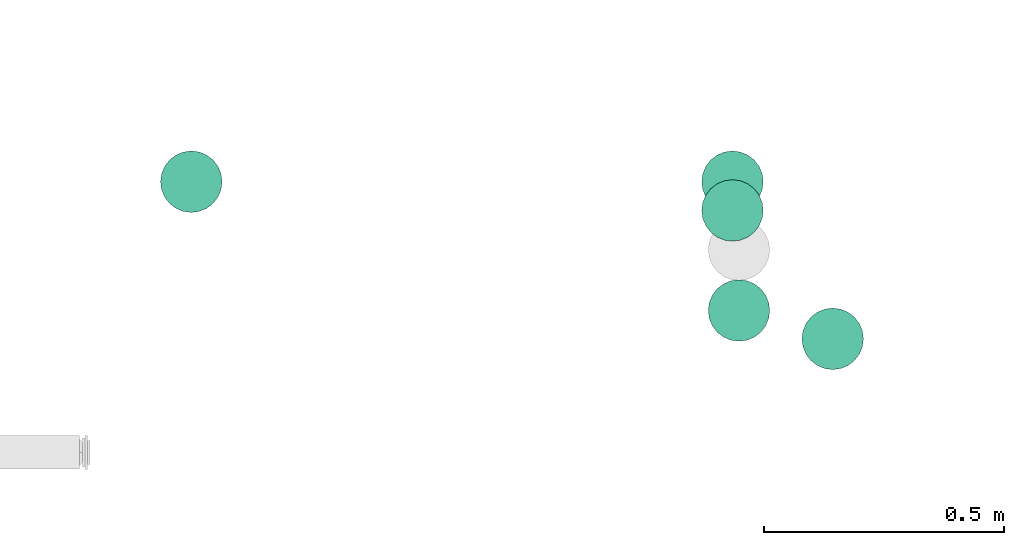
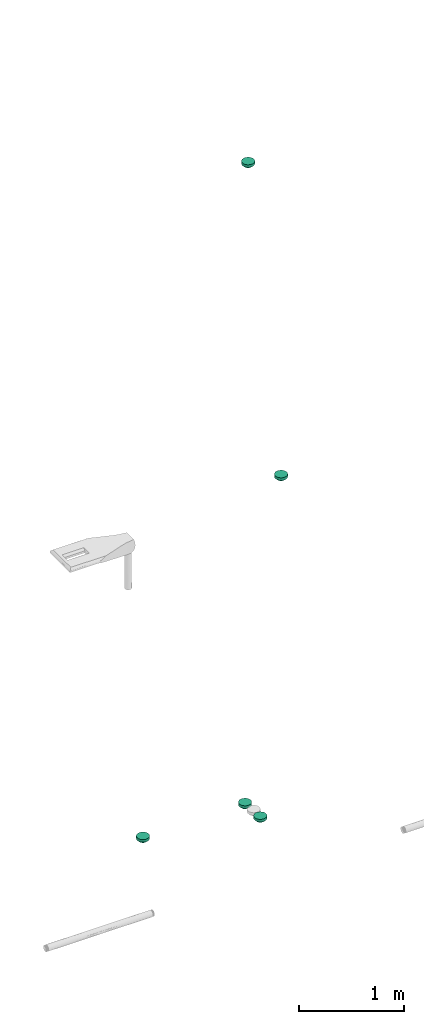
# One storey, part 106 of 153: 5 flow terminals.
"""IFC2X3 building model written with IfcOpenShell, lengths in metres."""

from ifc_helpers import new_model, entity, si_unit, converted_unit, derived_unit, direction, frame, origin, place, context, subcontext, project, spatial, faceted_brep, source, transform, mapped, type_object, type_shapes, element, save


model = new_model("IFC2X3")

# Units and contexts
model_context = context("Model", 3, precision=1e-05, world=origin(), true_north=direction((6.12303176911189e-17, 1.0)))
body_context = subcontext(model_context, "Body", "Model", "MODEL_VIEW")
ifc_project = project(units=[si_unit("LENGTHUNIT", "METRE"), si_unit("AREAUNIT", "SQUARE_METRE"), si_unit("VOLUMEUNIT", "CUBIC_METRE"), converted_unit("PLANEANGLEUNIT", "DEGREE", entity("IfcRatioMeasure", 0.0174532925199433), si_unit("PLANEANGLEUNIT", "RADIAN"), dimensions=[0, 0, 0, 0, 0, 0, 0]), si_unit("MASSUNIT", "GRAM", prefix="KILO"), derived_unit("MASSDENSITYUNIT", [(si_unit("MASSUNIT", "GRAM", prefix="KILO"), 1), (si_unit("LENGTHUNIT", "METRE"), -3)]), si_unit("TIMEUNIT", "SECOND"), si_unit("FREQUENCYUNIT", "HERTZ"), si_unit("THERMODYNAMICTEMPERATUREUNIT", "DEGREE_CELSIUS"), derived_unit("THERMALTRANSMITTANCEUNIT", [(si_unit("MASSUNIT", "GRAM", prefix="KILO"), 1), (si_unit("THERMODYNAMICTEMPERATUREUNIT", "KELVIN"), -1), (si_unit("TIMEUNIT", "SECOND"), -3)]), derived_unit("VOLUMETRICFLOWRATEUNIT", [(si_unit("LENGTHUNIT", "METRE"), 3), (si_unit("TIMEUNIT", "SECOND"), -1)]), si_unit("ELECTRICCURRENTUNIT", "AMPERE"), si_unit("ELECTRICVOLTAGEUNIT", "VOLT"), si_unit("POWERUNIT", "WATT"), si_unit("FORCEUNIT", "NEWTON"), si_unit("ILLUMINANCEUNIT", "LUX"), si_unit("LUMINOUSFLUXUNIT", "LUMEN"), si_unit("LUMINOUSINTENSITYUNIT", "CANDELA"), derived_unit("USERDEFINED", [(si_unit("MASSUNIT", "GRAM", prefix="KILO"), -1), (si_unit("LENGTHUNIT", "METRE"), -2), (si_unit("TIMEUNIT", "SECOND"), 3), (si_unit("LUMINOUSFLUXUNIT", "LUMEN"), 1)]), derived_unit("LINEARVELOCITYUNIT", [(si_unit("LENGTHUNIT", "METRE"), 1), (si_unit("TIMEUNIT", "SECOND"), -1)]), si_unit("PRESSUREUNIT", "PASCAL"), derived_unit("USERDEFINED", [(si_unit("LENGTHUNIT", "METRE"), -2), (si_unit("MASSUNIT", "GRAM", prefix="KILO"), 1), (si_unit("TIMEUNIT", "SECOND"), -2)])], contexts=[model_context])

# Site, building, storey
site_placement = place(None, origin())
site = spatial("IfcSite", under=ifc_project, at=site_placement, Name="Default", CompositionType="ELEMENT")
building_placement = place(site_placement, origin())
building = spatial("IfcBuilding", under=site, at=building_placement, CompositionType="ELEMENT")
storey_placement = place(building_placement, frame((0.0, 0.0, -4.62)))
storey = spatial("IfcBuildingStorey", under=building, at=storey_placement, Name="S02", CompositionType="ELEMENT", Elevation=-4.62)

# Flow terminals
light_fixture_type = type_object("IfcLightFixtureType", Name="Détecteur 360°", PredefinedType="NOTDEFINED")
shared_shape = source(origin(), body_context, "Body", "Brep", [
    faceted_brep([(0.0, -0.0397165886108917, 0.0531256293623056), (0.0, -0.034524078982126, 0.0563702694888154), (-0.0175153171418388, -0.0435914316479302, 0.0478512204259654), (-0.0194029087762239, -0.000878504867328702, 0.0644483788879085), (0.0, 0.0, 0.0669999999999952), (0.0, 0.00603476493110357, 0.0659648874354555), (-0.0174057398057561, -0.0159851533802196, 0.0630502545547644), (-0.0366619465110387, -0.0127227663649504, 0.0549213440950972), (-0.026998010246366, -0.0195753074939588, 0.0584711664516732), (-0.0202403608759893, -0.0335607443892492, 0.054639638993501), (-0.0359767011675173, -0.0348394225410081, 0.0444249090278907), (-0.0276843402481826, -0.0401006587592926, 0.0459804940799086), (-0.0133088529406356, -0.0517577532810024, 0.0400582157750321), (-0.0172617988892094, -0.0486391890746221, 0.042533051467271), (-0.0256912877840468, -0.0533485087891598, 0.0299999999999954), (-0.0462941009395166, -0.0369183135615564, 0.0299999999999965), (0.0, -0.0241390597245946, 0.0628595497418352), (-0.0186245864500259, -0.0267295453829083, 0.0589100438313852), (-0.0139070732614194, -0.0374370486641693, 0.0540817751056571), (0.0, 0.0449090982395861, 0.049880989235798), (-0.0172618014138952, 0.0486391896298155, 0.0425330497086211), (0.0, 0.0397165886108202, 0.0531256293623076), (-0.0186245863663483, 0.0267295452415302, 0.0589100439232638), (-0.0202403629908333, 0.0335607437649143, 0.054639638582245), (-0.0353547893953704, 0.0284533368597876, 0.0494330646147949), (0.0, 0.0120695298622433, 0.0649297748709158), (-0.0249385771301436, 0.0204731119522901, 0.0590841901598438), (-0.0191783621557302, 0.0150189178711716, 0.062775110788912), (-0.0465404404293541, -0.0196510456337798, 0.0438984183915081), (-0.052010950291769, -0.0250471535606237, 0.029999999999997), (-0.0453471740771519, -0.0286501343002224, 0.0397747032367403), (-0.0365036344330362, -0.0226255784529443, 0.0516441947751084), (-0.0175153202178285, 0.0435914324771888, 0.0478512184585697), (-0.0359926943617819, 0.0451334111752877, 0.0299999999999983), (-0.0276843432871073, 0.0401006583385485, 0.0459804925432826), (-0.00849704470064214, -0.0572729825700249, 0.0299999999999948), (0.0, -0.0592123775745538, 0.0299999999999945), (0.0, -0.0545512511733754, 0.0364787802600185), (0.0, -0.049890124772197, 0.0429575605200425), (-0.0169940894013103, -0.055333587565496, 0.0299999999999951), (-0.0359767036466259, 0.0348394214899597, 0.0444249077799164), (-0.025691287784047, 0.0533485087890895, 0.0299999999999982), (-0.0308419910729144, 0.0492409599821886, 0.0299999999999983), (-0.0130265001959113, 0.0514867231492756, 0.040526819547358), (-0.0169940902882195, 0.0553335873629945, 0.029999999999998), (0.0, 0.0498901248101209, 0.0429575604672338), (-0.0353547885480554, -0.0284533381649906, 0.0494330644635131), (0.0, 0.0181042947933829, 0.0638946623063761), (-0.0473669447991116, -0.00128092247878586, 0.0474310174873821), (-0.0485435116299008, -0.00908961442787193, 0.0452357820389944), (-0.0366597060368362, -0.0032867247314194, 0.0563153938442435), (-0.0226425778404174, -0.0107553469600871, 0.0624973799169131), (0.0, -0.00603476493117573, 0.0659648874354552), (0.0, 0.0293315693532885, 0.0596149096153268), (-0.0139070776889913, 0.0374370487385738, 0.0540817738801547), (-0.0449600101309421, 0.018422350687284, 0.0461366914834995), (-0.0453471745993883, 0.0286501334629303, 0.0397747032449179), (-0.0476906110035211, 0.00670602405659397, 0.0466053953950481), (-0.0577277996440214, 0.0131759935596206, 0.0299999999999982), (-0.0577277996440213, 0.00658799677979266, 0.029999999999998), (-0.0577277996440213, 0.0, 0.0299999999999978), (0.0, -0.0449090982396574, 0.0498809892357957), (-0.0308419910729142, -0.049240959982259, 0.0299999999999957), (-0.0359926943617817, -0.0451334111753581, 0.029999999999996), (0.0, 0.0345240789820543, 0.0563702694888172), (-0.0411433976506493, 0.0410258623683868, 0.0299999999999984), (-0.0462941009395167, 0.0369183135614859, 0.0299999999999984), (-0.0491525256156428, -0.03098273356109, 0.0299999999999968), (-0.0577277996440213, -0.0131759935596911, 0.0299999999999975), (0.0, -0.018104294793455, 0.0638946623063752), (-0.0377433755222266, 0.0044838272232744, 0.0554913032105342), (-0.0577277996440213, -0.00658799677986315, 0.0299999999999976), (-0.0385149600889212, 0.0124844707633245, 0.0536578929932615), (-0.0491525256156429, 0.0309827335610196, 0.0299999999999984), (-0.0548693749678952, 0.0191115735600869, 0.0299999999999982), (0.0, 0.0241390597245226, 0.0628595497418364), (-0.014625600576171, 0.0100436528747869, 0.0649170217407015), (-0.0271766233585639, 0.00920278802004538, 0.0609170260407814), (0.0, -0.0120695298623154, 0.0649297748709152), (-0.0520109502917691, 0.0250471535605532, 0.0299999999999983), (-0.0411433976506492, -0.0410258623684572, 0.0299999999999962), (-0.0548693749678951, -0.0191115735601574, 0.0299999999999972), (0.0, -0.0293315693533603, 0.0596149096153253), (0.0, 0.0545512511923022, 0.0364787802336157), (0.0, 0.0592123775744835, 0.0299999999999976), (-0.00849704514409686, 0.057272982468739, 0.0299999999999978), (-0.0127455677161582, 0.0563032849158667, 0.0299999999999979), (-0.0213426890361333, 0.054341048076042, 0.0299999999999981), (0.0175153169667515, 0.0435914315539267, 0.0478512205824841), (0.0194029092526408, 0.000878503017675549, 0.0644483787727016), (0.017405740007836, 0.0159851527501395, 0.0630502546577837), (0.0366619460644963, 0.012722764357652, 0.0549213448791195), (0.0269980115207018, 0.0195753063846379, 0.0584711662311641), (0.0202403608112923, 0.0335607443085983, 0.0546396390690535), (0.0359767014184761, 0.0348394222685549, 0.0444249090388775), (0.0276843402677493, 0.0401006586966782, 0.0459804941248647), (0.0133088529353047, 0.0517577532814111, 0.0400582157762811), (0.0172617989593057, 0.0486391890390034, 0.0425330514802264), (0.0256912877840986, 0.0533485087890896, 0.0299999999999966), (0.0462941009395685, 0.0369183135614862, 0.0299999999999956), (0.00849704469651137, 0.0572729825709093, 0.0299999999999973), (0.0169940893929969, 0.0553335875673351, 0.029999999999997), (0.0172617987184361, -0.0486391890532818, 0.0425330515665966), (0.025691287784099, -0.0533485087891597, 0.0299999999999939), (0.0308419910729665, -0.0492409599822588, 0.0299999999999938), (0.0175153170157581, -0.0435914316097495, 0.0478512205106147), (0.0186245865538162, -0.0267295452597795, 0.0589100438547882), (0.0202403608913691, -0.03356074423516, 0.0546396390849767), (0.0353547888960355, -0.0284533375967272, 0.0494330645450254), (0.0249385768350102, -0.0204731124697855, 0.0590841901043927), (0.0191783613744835, -0.0150189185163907, 0.062775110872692), (0.0465404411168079, 0.0196510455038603, 0.0438984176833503), (0.0577277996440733, 0.0131759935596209, 0.0299999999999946), (0.0548693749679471, 0.0191115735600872, 0.0299999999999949), (0.0520109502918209, 0.0250471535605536, 0.0299999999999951), (0.0365036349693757, 0.0226255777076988, 0.0516441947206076), (0.0186245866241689, 0.0267295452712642, 0.0589100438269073), (0.0359926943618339, -0.0451334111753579, 0.0299999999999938), (0.0276843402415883, -0.0401006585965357, 0.0459804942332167), (0.0139070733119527, 0.0374370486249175, 0.0540817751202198), (0.0359767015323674, -0.0348394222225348, 0.044424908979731), (0.0226425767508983, 0.0107553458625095, 0.0624973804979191), (0.0169940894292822, -0.0553335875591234, 0.0299999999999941), (0.0130264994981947, -0.0514867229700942, 0.0405268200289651), (0.0453471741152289, 0.0286501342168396, 0.039774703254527), (0.0353547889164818, 0.0284533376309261, 0.0494330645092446), (0.0473669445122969, 0.00128092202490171, 0.0474310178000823), (0.0485435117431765, 0.00908961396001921, 0.0452357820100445), (0.0366597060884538, 0.00328672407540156, 0.0563153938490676), (0.0139070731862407, -0.0374370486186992, 0.0540817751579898), (0.0449600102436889, -0.018422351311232, 0.0461366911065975), (0.0453471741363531, -0.0286501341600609, 0.039774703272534), (0.0476906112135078, -0.00670602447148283, 0.046605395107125), (0.0577277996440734, -0.0131759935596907, 0.0299999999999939), (0.0577277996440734, -0.00658799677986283, 0.0299999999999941), (0.0577277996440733, 0.0, 0.0299999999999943), (0.0308419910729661, 0.0492409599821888, 0.0299999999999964), (0.0359926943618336, 0.0451334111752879, 0.0299999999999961), (0.0411433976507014, -0.041025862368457, 0.0299999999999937), (0.0462941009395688, -0.0369183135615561, 0.0299999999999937), (0.0491525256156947, 0.0309827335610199, 0.0299999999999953), (0.037743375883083, -0.00448382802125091, 0.0554913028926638), (0.0577277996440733, 0.00658799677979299, 0.0299999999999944), (0.0385149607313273, -0.0124844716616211, 0.0536578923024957), (0.049152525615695, -0.0309827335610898, 0.0299999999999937), (0.0548693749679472, -0.0191115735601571, 0.0299999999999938), (0.0146256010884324, -0.0100436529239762, 0.0649170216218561), (0.0271766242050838, -0.00920278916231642, 0.0609170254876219), (0.0520109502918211, -0.0250471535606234, 0.0299999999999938), (0.041143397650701, 0.0410258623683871, 0.0299999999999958), (0.00849704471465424, -0.0572729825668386, 0.0299999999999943), (0.0127455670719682, -0.056303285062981, 0.0299999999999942), (0.0213426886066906, -0.0543410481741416, 0.029999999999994), (0.0, 0.0, 0.0299999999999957)], [[[0, 1, 2]], [[3, 4, 5]], [[6, 7, 8]], [[9, 10, 11]], [[12, 13, 14]], [[10, 15, 11]], [[9, 16, 17]], [[18, 9, 11]], [[19, 20, 21]], [[22, 23, 24]], [[25, 26, 27]], [[28, 29, 30]], [[8, 31, 17]], [[32, 33, 34]], [[35, 36, 37, 38, 39]], [[23, 40, 24]], [[20, 41, 42]], [[19, 43, 20]], [[44, 43, 45]], [[20, 32, 21]], [[30, 10, 46]], [[22, 26, 47]], [[48, 49, 50]], [[3, 51, 52]], [[53, 54, 23]], [[55, 24, 56]], [[57, 58, 59, 60]], [[13, 61, 0]], [[13, 0, 2]], [[2, 62, 13]], [[18, 2, 1]], [[2, 11, 63]], [[32, 64, 21]], [[32, 42, 33]], [[34, 33, 65, 66]], [[20, 42, 32]], [[54, 32, 34]], [[28, 30, 31]], [[10, 67, 15]], [[49, 68, 28]], [[8, 17, 69]], [[7, 6, 51]], [[28, 31, 7]], [[57, 48, 70]], [[58, 57, 55]], [[48, 71, 49]], [[70, 48, 50]], [[3, 50, 51]], [[55, 26, 24]], [[72, 57, 70]], [[26, 55, 72]], [[56, 40, 73]], [[56, 74, 55]], [[47, 75, 22]], [[52, 4, 3]], [[7, 50, 49]], [[5, 76, 3]], [[70, 3, 77]], [[51, 78, 52]], [[26, 25, 47]], [[76, 25, 27]], [[23, 22, 75]], [[26, 22, 24]], [[53, 64, 54]], [[23, 34, 40]], [[66, 40, 34]], [[40, 66, 73]], [[56, 73, 79, 74]], [[72, 27, 26]], [[40, 56, 24]], [[23, 75, 53]], [[69, 17, 16]], [[78, 6, 69]], [[46, 10, 9]], [[46, 9, 17]], [[50, 7, 51]], [[30, 29, 67]], [[80, 63, 11, 15]], [[28, 68, 81, 29]], [[10, 30, 67]], [[30, 46, 31]], [[82, 18, 1]], [[82, 16, 9]], [[28, 7, 49]], [[12, 39, 38]], [[61, 13, 12]], [[83, 84, 85, 86, 44, 45]], [[43, 41, 20]], [[44, 87, 41, 43]], [[32, 54, 64]], [[23, 54, 34]], [[9, 18, 82]], [[2, 18, 11]], [[39, 12, 14]], [[38, 61, 12]], [[62, 2, 63]], [[62, 14, 13]], [[17, 31, 46]], [[7, 31, 8]], [[48, 60, 71]], [[71, 68, 49]], [[60, 48, 57]], [[3, 70, 50]], [[72, 70, 77]], [[72, 77, 27]], [[55, 57, 72]], [[74, 58, 55]], [[76, 27, 77]], [[3, 76, 77]], [[25, 76, 5]], [[69, 6, 8]], [[78, 51, 6]], [[45, 43, 19]], [[21, 64, 88]], [[89, 4, 52]], [[90, 91, 92]], [[93, 94, 95]], [[96, 97, 98]], [[94, 99, 95]], [[100, 84, 83, 45, 101]], [[102, 103, 104]], [[102, 105, 0]], [[106, 107, 108]], [[78, 109, 110]], [[111, 112, 113, 114]], [[92, 115, 116]], [[105, 117, 118]], [[119, 93, 95]], [[107, 120, 108]], [[89, 121, 5]], [[122, 123, 38]], [[61, 123, 102]], [[93, 75, 116]], [[124, 94, 125]], [[106, 109, 69]], [[126, 127, 128]], [[61, 102, 0]], [[82, 129, 107]], [[130, 108, 131]], [[132, 133, 134, 135]], [[97, 19, 21]], [[97, 21, 88]], [[88, 136, 97]], [[119, 88, 64]], [[88, 95, 137]], [[105, 1, 0]], [[105, 104, 117]], [[118, 117, 138, 139]], [[102, 104, 105]], [[129, 105, 118]], [[111, 124, 115]], [[94, 140, 99]], [[127, 112, 111]], [[92, 116, 47]], [[91, 90, 121]], [[111, 115, 91]], [[132, 126, 141]], [[133, 132, 130]], [[126, 142, 127]], [[141, 126, 128]], [[89, 128, 121]], [[130, 109, 108]], [[143, 132, 141]], [[109, 130, 143]], [[131, 120, 144]], [[131, 145, 130]], [[69, 16, 106]], [[5, 4, 89]], [[91, 128, 127]], [[52, 146, 89]], [[141, 89, 147]], [[121, 25, 5]], [[109, 78, 69]], [[146, 78, 110]], [[107, 106, 16]], [[109, 106, 108]], [[82, 1, 129]], [[107, 118, 120]], [[139, 120, 118]], [[120, 139, 144]], [[131, 144, 148, 145]], [[143, 110, 109]], [[120, 131, 108]], [[107, 16, 82]], [[47, 116, 75]], [[25, 90, 47]], [[125, 94, 93]], [[125, 93, 116]], [[128, 91, 121]], [[124, 114, 140]], [[149, 137, 95, 99]], [[111, 114, 124]], [[94, 124, 140]], [[124, 125, 115]], [[53, 119, 64]], [[53, 75, 93]], [[111, 91, 127]], [[96, 101, 45]], [[19, 97, 96]], [[37, 36, 150, 151, 122, 38]], [[123, 103, 102]], [[122, 152, 103, 123]], [[105, 129, 1]], [[107, 129, 118]], [[93, 119, 53]], [[88, 119, 95]], [[101, 96, 98]], [[45, 19, 96]], [[136, 88, 137]], [[136, 98, 97]], [[116, 115, 125]], [[91, 115, 92]], [[126, 135, 142]], [[142, 112, 127]], [[135, 126, 132]], [[89, 141, 128]], [[143, 141, 147]], [[143, 147, 110]], [[130, 132, 143]], [[145, 133, 130]], [[146, 110, 147]], [[89, 146, 147]], [[78, 146, 52]], [[47, 90, 92]], [[25, 121, 90]], [[38, 123, 61]], [[153, 66, 65]], [[153, 65, 33]], [[153, 33, 42]], [[153, 42, 41]], [[153, 41, 87]], [[153, 73, 66]], [[153, 79, 73]], [[153, 74, 79]], [[153, 58, 74]], [[153, 87, 44]], [[153, 44, 86]], [[153, 86, 85]], [[153, 85, 84]], [[153, 84, 100]], [[153, 59, 58]], [[153, 60, 59]], [[153, 71, 60]], [[153, 68, 71]], [[153, 81, 68]], [[153, 29, 81]], [[153, 67, 29]], [[153, 15, 67]], [[153, 80, 15]], [[153, 63, 80]], [[153, 62, 63]], [[153, 14, 62]], [[153, 39, 14]], [[153, 35, 39]], [[153, 36, 35]], [[153, 100, 101]], [[153, 101, 98]], [[153, 98, 136]], [[153, 136, 137]], [[153, 137, 149]], [[153, 149, 99]], [[153, 99, 140]], [[153, 140, 114]], [[153, 114, 113]], [[153, 113, 112]], [[153, 112, 142]], [[153, 150, 36]], [[153, 151, 150]], [[153, 122, 151]], [[153, 152, 122]], [[153, 103, 152]], [[153, 104, 103]], [[153, 117, 104]], [[153, 138, 117]], [[153, 139, 138]], [[153, 144, 139]], [[153, 148, 144]], [[153, 145, 148]], [[153, 133, 145]], [[153, 142, 135]], [[153, 135, 134]], [[153, 134, 133]]]),
    faceted_brep([(0.0165644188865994, -0.0618192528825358, 0.029999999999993), (0.0320000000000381, -0.0554256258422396, 0.0299999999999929), (0.0452548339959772, -0.0452548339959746, 0.0299999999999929), (0.0554256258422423, -0.0320000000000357, 0.029999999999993), (0.0618192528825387, -0.016564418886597, 0.0299999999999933), (0.0640000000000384, 0.0, 0.0299999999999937), (0.0618192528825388, 0.016564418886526, 0.0299999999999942), (0.0554256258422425, 0.0319999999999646, 0.0299999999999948), (0.0452548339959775, 0.0452548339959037, 0.0299999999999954), (0.0320000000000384, 0.0554256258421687, 0.0299999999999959), (0.0165644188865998, 0.061819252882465, 0.0299999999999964), (0.0, 0.0639999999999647, 0.0299999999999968), (-0.0165644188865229, 0.061819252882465, 0.0299999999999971), (-0.0319999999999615, 0.0554256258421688, 0.0299999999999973), (-0.0452548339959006, 0.0452548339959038, 0.0299999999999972), (-0.0554256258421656, 0.0319999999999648, 0.0299999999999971), (-0.0618192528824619, 0.0165644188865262, 0.0299999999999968), (-0.0639999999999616, 0.0, 0.0299999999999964), (-0.061819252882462, -0.0165644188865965, 0.0299999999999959), (-0.0554256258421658, -0.0320000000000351, 0.0299999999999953), (-0.0452548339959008, -0.0452548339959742, 0.0299999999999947), (-0.0319999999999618, -0.0554256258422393, 0.0299999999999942), (-0.0165644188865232, -0.0618192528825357, 0.0299999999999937), (0.0, -0.0640000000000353, 0.0299999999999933), (0.0165644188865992, 0.0618192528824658, 0.0), (0.0320000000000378, 0.0554256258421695, 0.0), (0.0452548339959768, 0.0452548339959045, 0.0), (0.0554256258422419, 0.0319999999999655, 0.0), (0.0618192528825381, 0.0165644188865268, 0.0), (0.0640000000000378, 0.0, 0.0), (0.061819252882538, -0.0165644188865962, 0.0), (0.0554256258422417, -0.0320000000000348, 0.0), (0.0452548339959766, -0.0452548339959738, 0.0), (0.0320000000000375, -0.0554256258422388, 0.0), (0.0165644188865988, -0.061819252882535, 0.0), (0.0, -0.0640000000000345, 0.0), (-0.0165644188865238, -0.0618192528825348, 0.0), (-0.0319999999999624, -0.0554256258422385, 0.0), (-0.0452548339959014, -0.0452548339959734, 0.0), (-0.0554256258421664, -0.0320000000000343, 0.0), (-0.0618192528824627, -0.0165644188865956, 0.0), (-0.0639999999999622, 0.0, 0.0), (-0.0618192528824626, 0.016564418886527, 0.0), (-0.0554256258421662, 0.0319999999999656, 0.0), (-0.0452548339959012, 0.0452548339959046, 0.0), (-0.0319999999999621, 0.0554256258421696, 0.0), (-0.0165644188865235, 0.0618192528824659, 0.0), (0.0, 0.0639999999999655, 0.0)], [[[0, 1, 2, 3, 4, 5, 6, 7, 8, 9, 10, 11, 12, 13, 14, 15, 16, 17, 18, 19, 20, 21, 22, 23]], [[24, 25, 26, 27, 28, 29, 30, 31, 32, 33, 34, 35, 36, 37, 38, 39, 40, 41, 42, 43, 44, 45, 46, 47]], [[40, 18, 17, 41]], [[39, 19, 18, 40]], [[21, 20, 38, 37]], [[39, 38, 20, 19]], [[22, 21, 37, 36]], [[23, 22, 36, 35]], [[34, 0, 23, 35]], [[33, 1, 0, 34]], [[3, 2, 32, 31]], [[33, 32, 2, 1]], [[4, 3, 31, 30]], [[5, 4, 30, 29]], [[28, 6, 5, 29]], [[27, 7, 6, 28]], [[9, 8, 26, 25]], [[27, 26, 8, 7]], [[10, 9, 25, 24]], [[11, 10, 24, 47]], [[46, 12, 11, 47]], [[45, 13, 12, 46]], [[42, 41, 17, 16]], [[44, 14, 13, 45]], [[43, 15, 14, 44]], [[43, 42, 16, 15]]]),
])
type_shapes(light_fixture_type, [shared_shape])
for number, where, z_axis, x_axis in (
    (1, (45.5032996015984, -184.020270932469, 4.62), (0.0, 0.0, -1.0), (1.0, 0.0, 0.0)),
    (2, (45.6982608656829, -184.079271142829, 8.569), (0.0, 0.0, -1.0), (1.0, 0.0, 0.0)),
    (3, (45.4897436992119, -183.752317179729, 4.62), (0.0, 0.0, -1.0), (1.0, 0.0, 0.0)),
    (4, (44.3637436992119, -183.752317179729, 4.62), (0.0, 0.0, -1.0), (1.0, 0.0, 0.0)),
    (5, (45.4897436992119, -183.812119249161, 12.129), (0.0, 0.0, -1.0), (1.0, 0.0, 0.0)),
):
    element("IfcFlowTerminal", number, at=place(storey_placement, frame(where, z_axis=z_axis, x_axis=x_axis)), inside=storey, type_object=light_fixture_type, Name="INT - Détecteur 360°:Détecteur 360°", ObjectType="INT - Détecteur 360°:Détecteur 360°", context=body_context, shape_type="MappedRepresentation", body=[
        mapped(shared_shape, transform((0.0, 0.0, 0.0), scale=1.0)),
    ])

save(model, "model.ifc")
